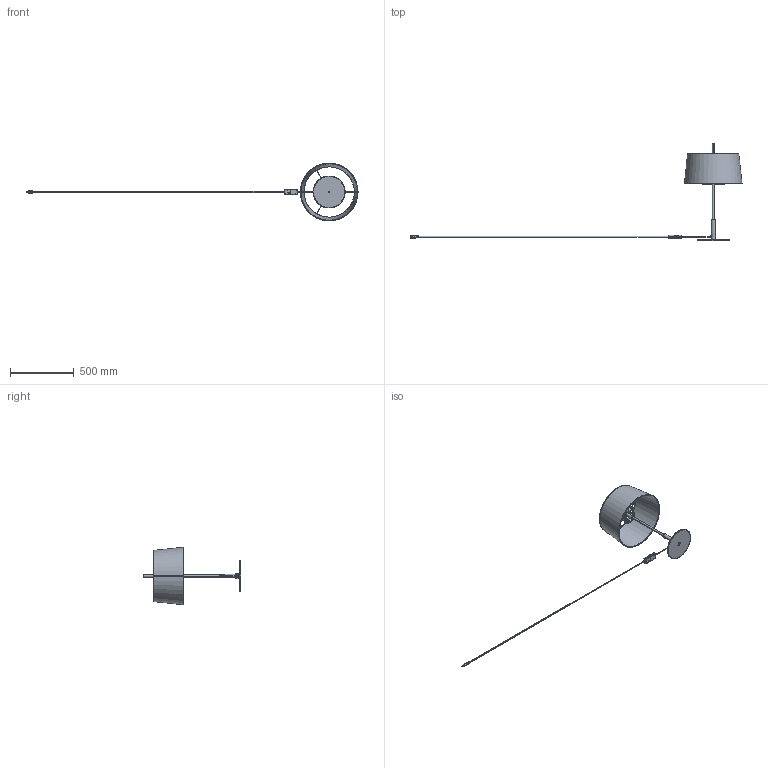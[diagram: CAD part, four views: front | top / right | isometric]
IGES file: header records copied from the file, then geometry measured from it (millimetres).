
Start section: SolidWorks IGES file using analytic representation for surfaces
Global section: file name: C:\Users\GabrielG\Desktop\DIANA Sobremesa.IGS; native system: SolidWorks 2015; preprocessor: SolidWorks 2015; author: GabrielG; date: 160414.193312; units: millimetre
Bounding box: 2595.32 x 758.6 x 450.26 mm (x, y, z)
Surface area: 1046589.5 mm2 (no closed solid volume)
Topology: 0 solids, 0 shells, 272 faces, 4770 edges, 4766 vertices
Faces by surface type: revolution 136, bspline 136
